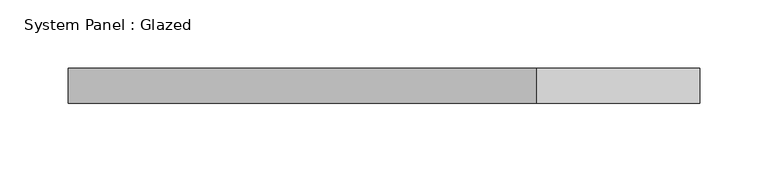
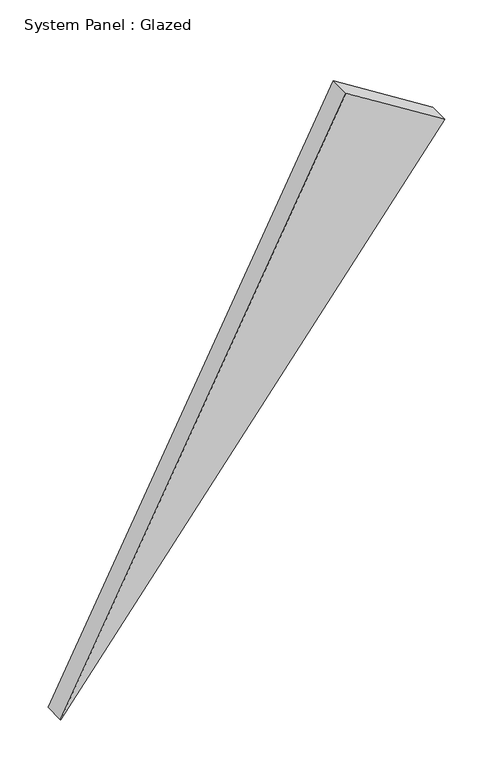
"""IFC4 building model written with IfcOpenShell, lengths in millimetres: plate geometry, System Panel : Glazed."""

from ifc_helpers import new_model, si_unit, frame, origin, place, context, project, spatial, polyline, outline, extrude, source, transform, mapped, element, save


def system_panel_glazed_947d4750(model_context):
    return source(origin(), model_context, "Body", "SweptSolid", [
        extrude(outline(polyline([(0.4512398, -230.9563578), (0.0, -230.2399591), (600.8198171, 230.9563578), (675.9106557, 111.7404072), (0.4512398, -230.9563578)])), frame((0.0, -44.45, 0.0), z_axis=(0.0, 1.0, 0.0), x_axis=(0.0, 0.0, 1.0)), (0.0, 0.0, 1.0), 25.4),
    ])


if __name__ == "__main__":
    model = new_model("IFC4")
    model_context = context("Model", 3, world=origin())
    ifc_project = project(units=[si_unit("LENGTHUNIT", "METRE", prefix="MILLI")], contexts=[model_context])
    site = spatial("IfcSite", under=ifc_project)
    building = spatial("IfcBuilding", under=site)
    placement = place(None, origin())
    system_panel_glazed_shape = system_panel_glazed_947d4750(model_context)
    element("IfcPlate", 1, ObjectType="System Panel : Glazed", at=placement, inside=building, context=model_context, shape_type="MappedRepresentation", body=[
        mapped(system_panel_glazed_shape, transform((0.0, 0.0, 0.0), x_axis=(1.0, 0.0, 0.0), y_axis=(0.0, 1.0, 0.0), z_axis=(0.0, 0.0, 1.0))),
    ])
    save(model, "model.ifc")
